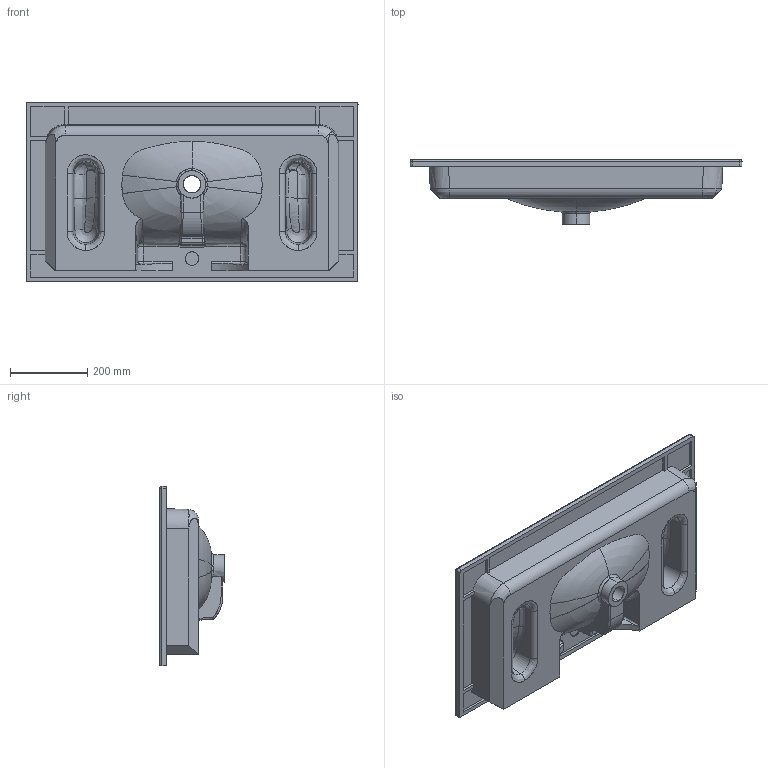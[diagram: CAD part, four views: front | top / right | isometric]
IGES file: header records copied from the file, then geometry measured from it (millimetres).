
Start section: SolidWorks IGES file using NURBS representation for surfaces
Global section: file name: C:\Users\User\Desktop\Soft\lavabi definitivi soft 46 m\soft 860 x 465\definitivo soft 860 x 465.IGS; native system: SolidWorks 2016; preprocessor: SolidWorks 2016; author: User; date: 200804.154656; units: millimetre
Bounding box: 860 x 168 x 465 mm (x, y, z)
Surface area: 1181244.2 mm2 (no closed solid volume)
Topology: 0 solids, 0 shells, 189 faces, 2952 edges, 2944 vertices
Faces by surface type: bspline 189
